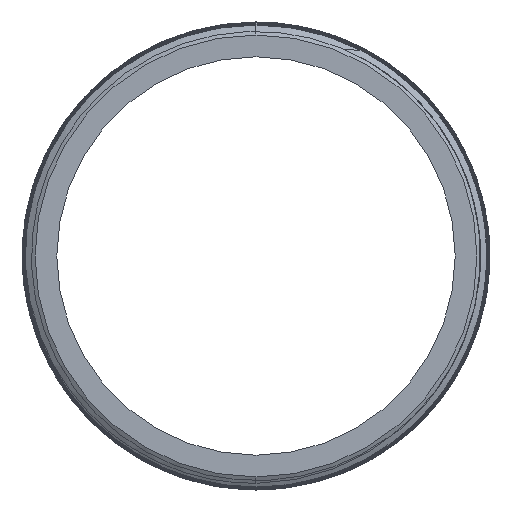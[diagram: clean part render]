
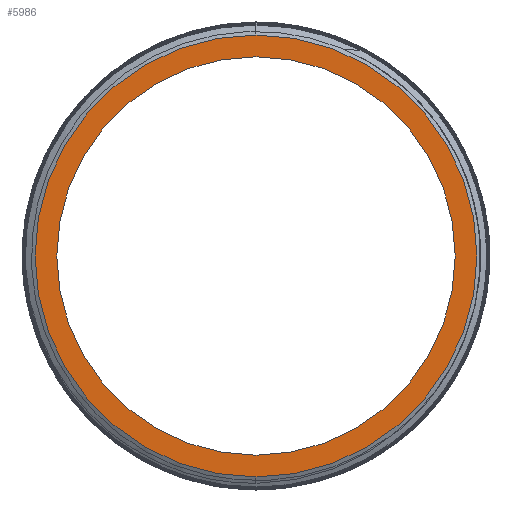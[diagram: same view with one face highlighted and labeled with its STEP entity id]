
A CAD part, left-side view. The second image highlights one B-rep face of the part: STEP entity #5986.
In plain terms, the highlighted planar face has unit normal (-1, 0, 0).
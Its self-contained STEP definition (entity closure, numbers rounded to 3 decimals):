
#666 = DIRECTION ( 'NONE',  ( 0., 0., 1. ) ) ;
#1792 = CARTESIAN_POINT ( 'NONE',  ( -125., 0., 0. ) ) ;
#1892 = CIRCLE ( 'NONE', #9435, 12.7 ) ;
#1970 = VERTEX_POINT ( 'NONE', #4392 ) ;
#2040 = AXIS2_PLACEMENT_3D ( 'NONE', #3716, #7839, #6748 ) ;
#2089 = ORIENTED_EDGE ( 'NONE', *, *, #6964, .T. ) ;
#2652 = EDGE_CURVE ( 'NONE', #1970, #11413, #3715, .T. ) ;
#2820 = AXIS2_PLACEMENT_3D ( 'NONE', #8585, #12699, #3460 ) ;
#3037 = AXIS2_PLACEMENT_3D ( 'NONE', #10859, #11997, #9845 ) ;
#3460 = DIRECTION ( 'NONE',  ( 0., 0., 1. ) ) ;
#3576 = ORIENTED_EDGE ( 'NONE', *, *, #2652, .T. ) ;
#3708 = FACE_OUTER_BOUND ( 'NONE', #11025, .T. ) ;
#3715 = CIRCLE ( 'NONE', #11659, 12.7 ) ;
#3716 = CARTESIAN_POINT ( 'NONE',  ( -125., 0., 0. ) ) ;
#4010 = DIRECTION ( 'NONE',  ( -1., 0., 0. ) ) ;
#4249 = EDGE_CURVE ( 'NONE', #10144, #8710, #8632, .T. ) ;
#4360 = FACE_BOUND ( 'NONE', #7042, .T. ) ;
#4392 = CARTESIAN_POINT ( 'NONE',  ( -125., 0., 12.7 ) ) ;
#5495 = CIRCLE ( 'NONE', #2040, 11.45 ) ;
#5723 = PLANE ( 'NONE',  #3037 ) ;
#5908 = DIRECTION ( 'NONE',  ( 0., 0., 1. ) ) ;
#5986 = ADVANCED_FACE ( 'NONE', ( #4360, #3708 ), #5723, .F. ) ;
#6316 = CARTESIAN_POINT ( 'NONE',  ( -125., 0., -12.7 ) ) ;
#6748 = DIRECTION ( 'NONE',  ( 0., 0., 1. ) ) ;
#6964 = EDGE_CURVE ( 'NONE', #11413, #1970, #1892, .T. ) ;
#7042 = EDGE_LOOP ( 'NONE', ( #12800, #7634 ) ) ;
#7634 = ORIENTED_EDGE ( 'NONE', *, *, #4249, .F. ) ;
#7837 = EDGE_CURVE ( 'NONE', #8710, #10144, #5495, .T. ) ;
#7839 = DIRECTION ( 'NONE',  ( -1., 0., 0. ) ) ;
#8585 = CARTESIAN_POINT ( 'NONE',  ( -125., 0., 0. ) ) ;
#8632 = CIRCLE ( 'NONE', #2820, 11.45 ) ;
#8710 = VERTEX_POINT ( 'NONE', #9816 ) ;
#9435 = AXIS2_PLACEMENT_3D ( 'NONE', #11940, #11870, #666 ) ;
#9816 = CARTESIAN_POINT ( 'NONE',  ( -125., 0., 11.45 ) ) ;
#9845 = DIRECTION ( 'NONE',  ( 0., 0., -1. ) ) ;
#10144 = VERTEX_POINT ( 'NONE', #13195 ) ;
#10859 = CARTESIAN_POINT ( 'NONE',  ( -125., 11.45, 0. ) ) ;
#11025 = EDGE_LOOP ( 'NONE', ( #2089, #3576 ) ) ;
#11413 = VERTEX_POINT ( 'NONE', #6316 ) ;
#11659 = AXIS2_PLACEMENT_3D ( 'NONE', #1792, #4010, #5908 ) ;
#11870 = DIRECTION ( 'NONE',  ( -1., 0., 0. ) ) ;
#11940 = CARTESIAN_POINT ( 'NONE',  ( -125., 0., 0. ) ) ;
#11997 = DIRECTION ( 'NONE',  ( 1., 0., 0. ) ) ;
#12699 = DIRECTION ( 'NONE',  ( -1., 0., 0. ) ) ;
#12800 = ORIENTED_EDGE ( 'NONE', *, *, #7837, .F. ) ;
#13195 = CARTESIAN_POINT ( 'NONE',  ( -125., 0., -11.45 ) ) ;
